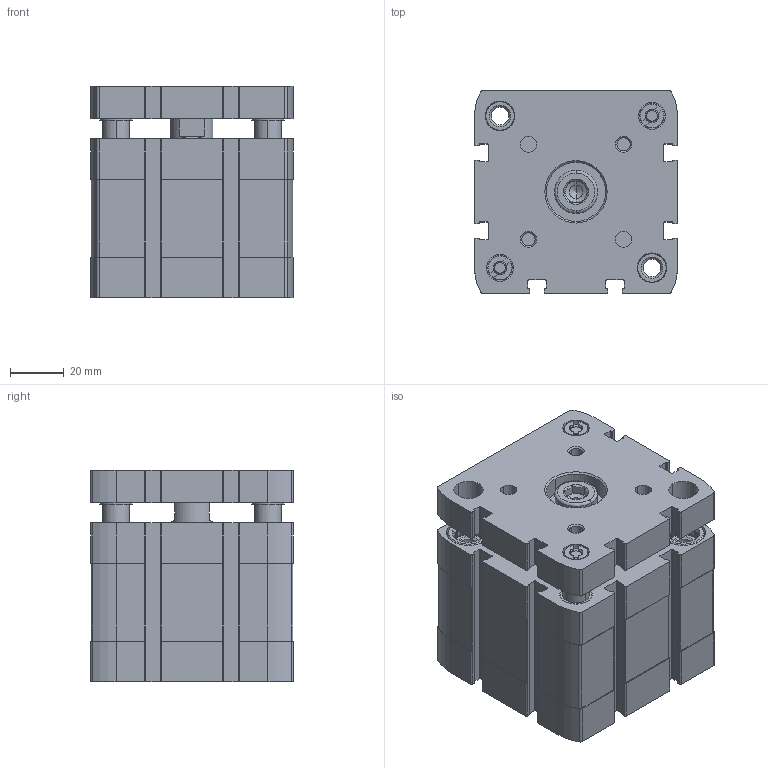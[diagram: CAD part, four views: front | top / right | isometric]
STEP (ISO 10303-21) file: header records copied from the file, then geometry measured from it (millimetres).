
FILE_DESCRIPTION (( 'STEP AP203' ), '1' );
FILE_NAME ('CCNG63-10.STEP', '2017-04-20T14:10:55', ( '' ), ( '' ), 'SwSTEP 2.0', 'SolidWorks 2016', '' );
FILE_SCHEMA (( 'CONFIG_CONTROL_DESIGN' ));
Length unit declared in the file: millimetre
Products named in the file (3): CCNG-63-10----(Z); CCNG-63-10----(KS); CCNG63-10
Assembly tree (2 placements, depth 2):
  CCNG63-10
    CCNG-63-10----(Z)
    CCNG-63-10----(KS)
Bounding box: 75.5 x 75.5 x 78.5 mm (x, y, z)
Volume: 341707 mm3; surface area: 85970.5 mm2
Topology: 2 solids, 4 shells, 714 faces, 1928 edges, 1265 vertices
Faces by surface type: plane 358, cylinder 278, cone 72, bspline 6
Entity records: 23171 total; most frequent: CARTESIAN_POINT 4446, DIRECTION 3968, ORIENTED_EDGE 3852, EDGE_CURVE 1926, AXIS2_PLACEMENT_3D 1463, VERTEX_POINT 1265, VECTOR 1042, LINE 1042
